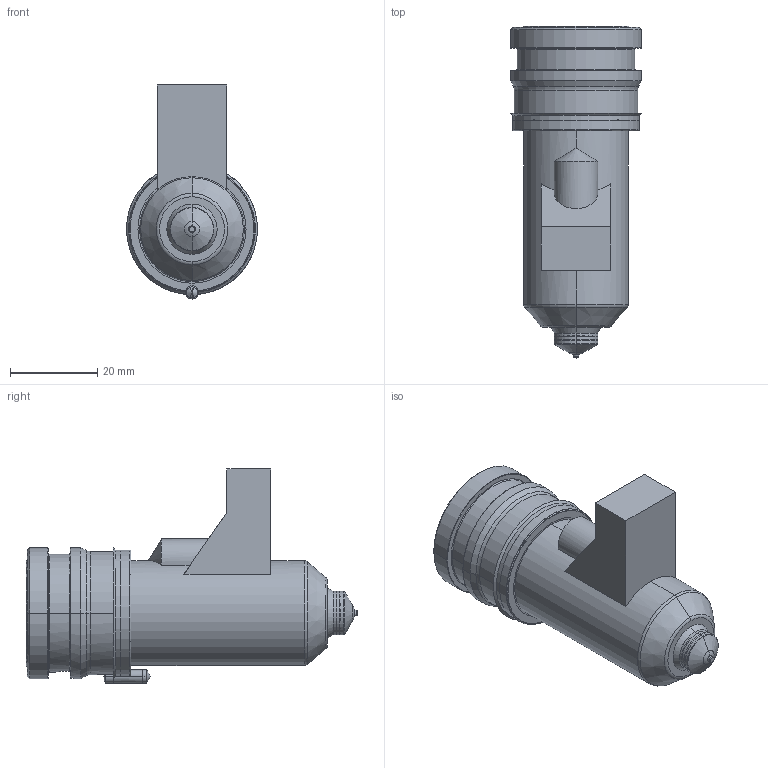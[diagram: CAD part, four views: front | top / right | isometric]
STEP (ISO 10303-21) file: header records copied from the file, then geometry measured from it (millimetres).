
FILE_DESCRIPTION((''),'2;1');
FILE_NAME('MPN-10-29-VSA10-056-M','2026-02-05T13:00:08',('UPTIO'),('Thermoplay S.p.A.'),'CREO PARAMETRIC BY PTC INC, 2023494','CREO PARAMETRIC BY PTC INC, 2023494','');
FILE_SCHEMA(('CONFIG_CONTROL_DESIGN','SHAPE_APPEARANCE_LAYERS_GROUPS'));
Length unit declared in the file: millimetre
Products named in the file (1): MPN-10-29-VSA10-056-M
Bounding box: 30 x 76 x 49 mm (x, y, z)
Volume: 25128.9 mm3; surface area: 25793.6 mm2
Topology: 3 solids, 5 shells, 542 faces, 1370 edges, 833 vertices
Faces by surface type: cylinder 182, plane 144, bspline 71, torus 69, cone 68, sphere 8
Entity records: 28249 total; most frequent: CARTESIAN_POINT 12429, ORIENTED_EDGE 2726, DIRECTION 2607, EDGE_CURVE 1363, AXIS2_PLACEMENT_3D 1038, VERTEX_POINT 833, EDGE_LOOP 570, CIRCLE 566
